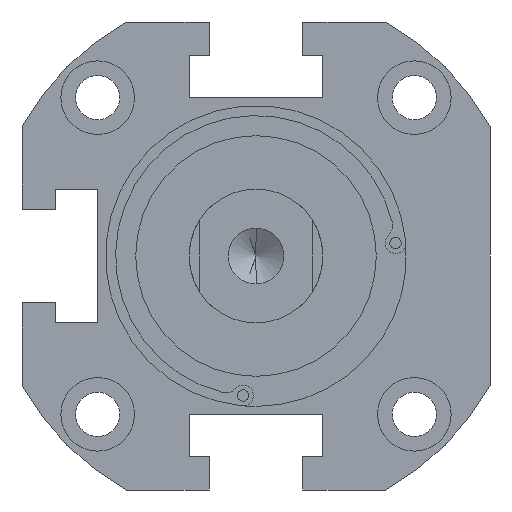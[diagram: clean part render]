
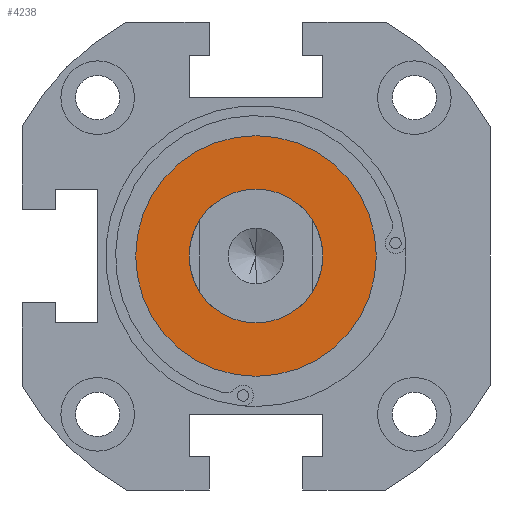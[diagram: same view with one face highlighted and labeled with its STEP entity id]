
A CAD part, front view. The second image highlights one B-rep face of the part: STEP entity #4238.
In plain terms, the highlighted planar face has unit normal (0, -1, 0).
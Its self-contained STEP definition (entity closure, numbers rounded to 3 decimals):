
#79 = VERTEX_POINT ( 'NONE', #3659 ) ;
#121 = CIRCLE ( 'NONE', #2708, 10. ) ;
#154 = AXIS2_PLACEMENT_3D ( 'NONE', #720, #3501, #4220 ) ;
#290 = DIRECTION ( 'NONE',  ( 0., 0., 1. ) ) ;
#307 = EDGE_LOOP ( 'NONE', ( #4172, #1387 ) ) ;
#309 = PLANE ( 'NONE',  #491 ) ;
#337 = EDGE_CURVE ( 'NONE', #79, #2913, #3170, .T. ) ;
#388 = CARTESIAN_POINT ( 'NONE',  ( 0., -45., 10. ) ) ;
#491 = AXIS2_PLACEMENT_3D ( 'NONE', #3779, #4092, #290 ) ;
#606 = EDGE_CURVE ( 'NONE', #4117, #616, #121, .T. ) ;
#616 = VERTEX_POINT ( 'NONE', #388 ) ;
#720 = CARTESIAN_POINT ( 'NONE',  ( 0., -45., 0. ) ) ;
#747 = CIRCLE ( 'NONE', #2243, 18. ) ;
#829 = CARTESIAN_POINT ( 'NONE',  ( 0., -45., -10. ) ) ;
#842 = ORIENTED_EDGE ( 'NONE', *, *, #337, .F. ) ;
#999 = DIRECTION ( 'NONE',  ( 0., 0., 1. ) ) ;
#1048 = EDGE_LOOP ( 'NONE', ( #3022, #842 ) ) ;
#1236 = DIRECTION ( 'NONE',  ( 0., 0., 1. ) ) ;
#1364 = DIRECTION ( 'NONE',  ( 0., 1., 0. ) ) ;
#1387 = ORIENTED_EDGE ( 'NONE', *, *, #606, .F. ) ;
#1678 = FACE_OUTER_BOUND ( 'NONE', #1048, .T. ) ;
#1684 = CARTESIAN_POINT ( 'NONE',  ( 0., -45., 0. ) ) ;
#1754 = CARTESIAN_POINT ( 'NONE',  ( 0., -45., -18. ) ) ;
#2243 = AXIS2_PLACEMENT_3D ( 'NONE', #1684, #1364, #999 ) ;
#2445 = AXIS2_PLACEMENT_3D ( 'NONE', #4083, #2974, #1236 ) ;
#2464 = CARTESIAN_POINT ( 'NONE',  ( 0., -45., 0. ) ) ;
#2513 = DIRECTION ( 'NONE',  ( 0., 0., 1. ) ) ;
#2708 = AXIS2_PLACEMENT_3D ( 'NONE', #2464, #3890, #2513 ) ;
#2913 = VERTEX_POINT ( 'NONE', #1754 ) ;
#2974 = DIRECTION ( 'NONE',  ( 0., -1., 0. ) ) ;
#3022 = ORIENTED_EDGE ( 'NONE', *, *, #4432, .F. ) ;
#3170 = CIRCLE ( 'NONE', #154, 18. ) ;
#3501 = DIRECTION ( 'NONE',  ( 0., 1., 0. ) ) ;
#3659 = CARTESIAN_POINT ( 'NONE',  ( 0., -45., 18. ) ) ;
#3689 = EDGE_CURVE ( 'NONE', #616, #4117, #4354, .T. ) ;
#3779 = CARTESIAN_POINT ( 'NONE',  ( 0., -45., 0. ) ) ;
#3890 = DIRECTION ( 'NONE',  ( 0., -1., 0. ) ) ;
#4083 = CARTESIAN_POINT ( 'NONE',  ( 0., -45., 0. ) ) ;
#4092 = DIRECTION ( 'NONE',  ( 0., 1., 0. ) ) ;
#4117 = VERTEX_POINT ( 'NONE', #829 ) ;
#4172 = ORIENTED_EDGE ( 'NONE', *, *, #3689, .F. ) ;
#4220 = DIRECTION ( 'NONE',  ( 0., 0., 1. ) ) ;
#4238 = ADVANCED_FACE ( 'NONE', ( #1678, #4453 ), #309, .F. ) ;
#4354 = CIRCLE ( 'NONE', #2445, 10. ) ;
#4432 = EDGE_CURVE ( 'NONE', #2913, #79, #747, .T. ) ;
#4453 = FACE_BOUND ( 'NONE', #307, .T. ) ;
